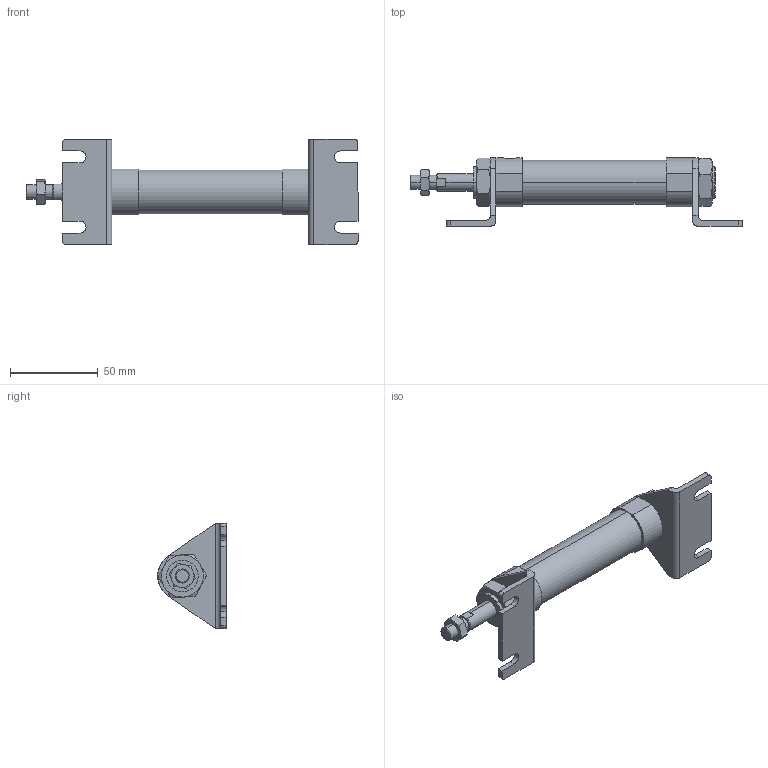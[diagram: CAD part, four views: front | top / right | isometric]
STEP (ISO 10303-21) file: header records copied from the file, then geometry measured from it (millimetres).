
FILE_DESCRIPTION (( 'STEP AP203' ), '1' );
FILE_NAME ('J#0-20-15-L.STEP', '2016-03-10T00:41:07', ( '' ), ( '' ), 'SwSTEP 2.0', 'SolidWorks 2014', '' );
FILE_SCHEMA (( 'CONFIG_CONTROL_DESIGN' ));
Length unit declared in the file: millimetre
Products named in the file (5): J#2-20-L; J#0-20-15-L; J#0-20-15
Assembly tree (6 placements, depth 2):
  J#0-20-15-L
    J#0-20-15
    (unnamed)
    (unnamed)  x2
    J#2-20-L  x2
Bounding box: 189.2 x 39 x 60 mm (x, y, z)
Volume: 88465.5 mm3; surface area: 29322.3 mm2
Topology: 6 solids, 6 shells, 165 faces, 386 edges, 242 vertices
Faces by surface type: plane 73, cylinder 50, torus 36, cone 6
Entity records: 4138 total; most frequent: CARTESIAN_POINT 946, DIRECTION 565, ORIENTED_EDGE 530, EDGE_CURVE 265, AXIS2_PLACEMENT_3D 229, VERTEX_POINT 166, EDGE_LOOP 131, FACE_OUTER_BOUND 116
